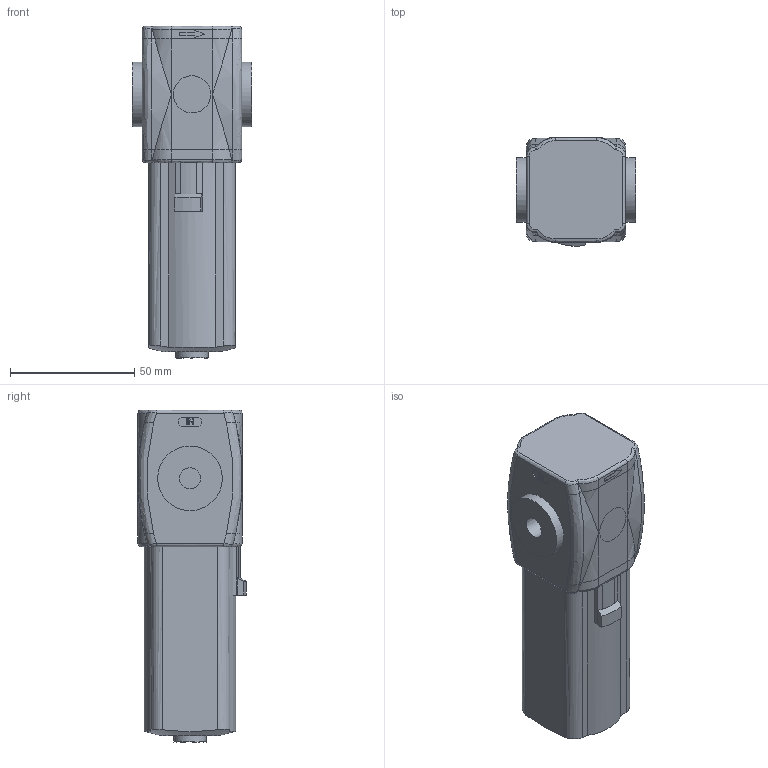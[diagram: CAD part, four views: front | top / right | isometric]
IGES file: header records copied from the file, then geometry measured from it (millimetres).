
Global section: file name: N171AF#S; native system: Autodesk Inventor 2014; preprocessor: unknown; author: M.Valota; organization: Pneumax S.p.A.; date: 20140522.092752; units: millimetre
Bounding box: 48 x 43.6 x 133.6 mm (x, y, z)
Volume: 180929.5 mm3; surface area: 22686.7 mm2
Topology: 1 solids, 1 shells, 203 faces, 507 edges, 323 vertices
Faces by surface type: bspline 203
